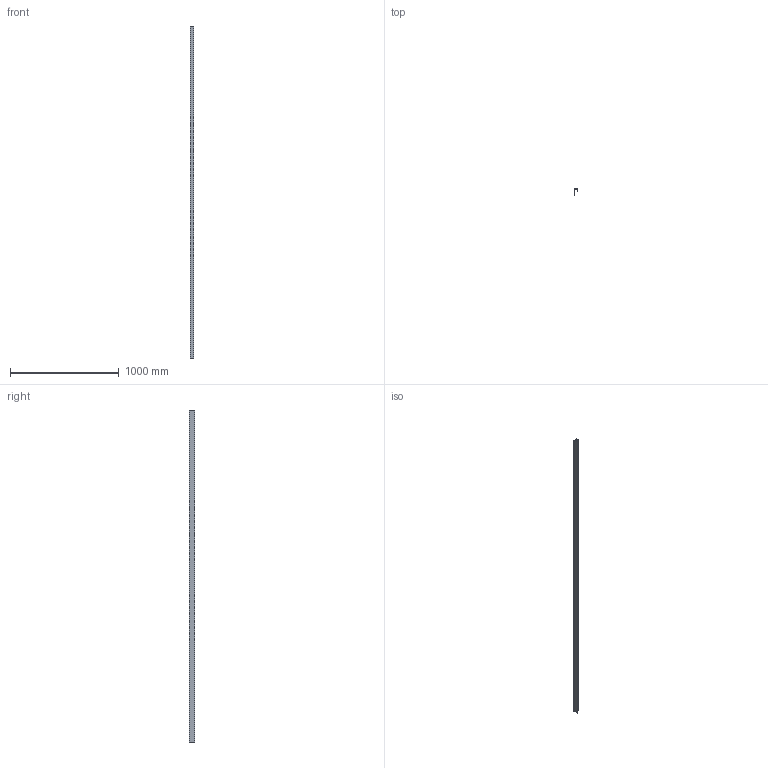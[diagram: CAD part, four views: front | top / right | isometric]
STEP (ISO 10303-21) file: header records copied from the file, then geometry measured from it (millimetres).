
FILE_DESCRIPTION(/* description */ (''),/* implementation_level */ '2;1');
FILE_NAME(/* name */ 'M13I (2-2).stp',/* time_stamp */ '2025-05-14T09:56:25-04:00',/* author */ ('gabrielle.gilbert'),/* organization */ (''),/* preprocessor_version */ 'ST-DEVELOPER v20',/* originating_system */ 'Autodesk Inventor 2025',/* authorisation */ '');
FILE_SCHEMA (('AUTOMOTIVE_DESIGN { 1 0 10303 214 3 1 1 }'));
Length unit declared in the file: inch
Products named in the file (1): M13I (2-2)
Bounding box: 31.64 x 50.67 x 3048 mm (x, y, z)
Volume: 141555.2 mm3; surface area: 625550.6 mm2
Topology: 1 solids, 1 shells, 14 faces, 36 edges, 24 vertices
Faces by surface type: plane 10, cylinder 4
Entity records: 473 total; most frequent: CARTESIAN_POINT 75, DIRECTION 74, ORIENTED_EDGE 72, EDGE_CURVE 36, LINE 28, VECTOR 28, VERTEX_POINT 24, AXIS2_PLACEMENT_3D 23
